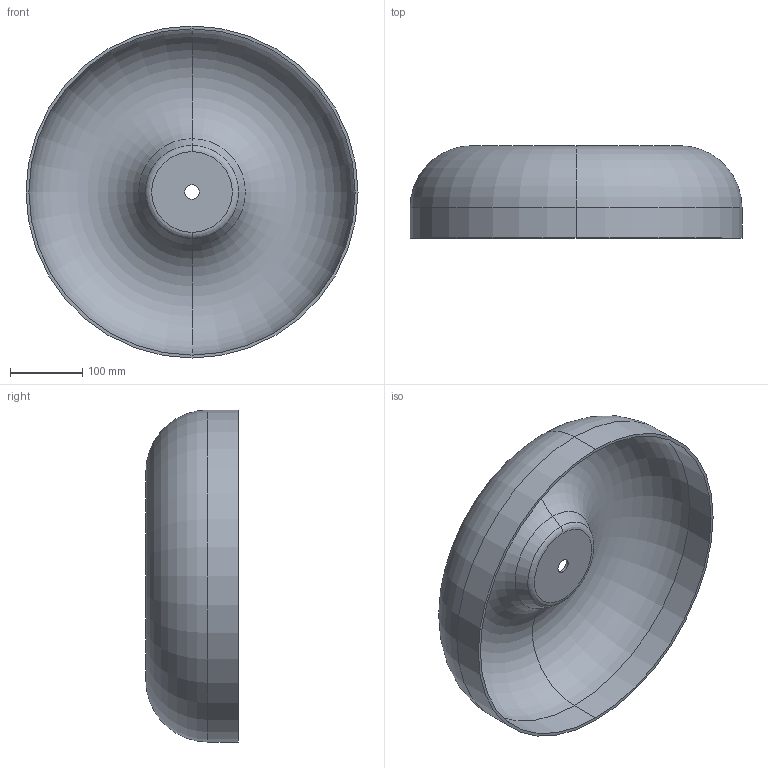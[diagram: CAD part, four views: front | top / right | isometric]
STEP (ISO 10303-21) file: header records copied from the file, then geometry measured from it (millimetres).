
FILE_DESCRIPTION (( 'STEP AP214' ), '1' );
FILE_NAME ('046_GRANDE_W-C_PL_3D.STEP', '2021-05-21T07:17:33', ( '' ), ( '' ), 'SwSTEP 2.0', 'SolidWorks 2021', '' );
FILE_SCHEMA (( 'AUTOMOTIVE_DESIGN' ));
Length unit declared in the file: millimetre
Products named in the file (1): 046_GRANDE_W-C_PL_3D
Bounding box: 460 x 127.99 x 460 mm (x, y, z)
Volume: 1203335.5 mm3; surface area: 607682.9 mm2
Topology: 1 solids, 1 shells, 21 faces, 42 edges, 24 vertices
Faces by surface type: torus 8, cylinder 6, cone 4, plane 3
Entity records: 821 total; most frequent: DIRECTION 118, CARTESIAN_POINT 88, ORIENTED_EDGE 84, AXIS2_PLACEMENT_3D 54, EDGE_CURVE 42, CIRCLE 32, EDGE_LOOP 24, UNCERTAINTY_MEASURE_WITH_UNIT 24
